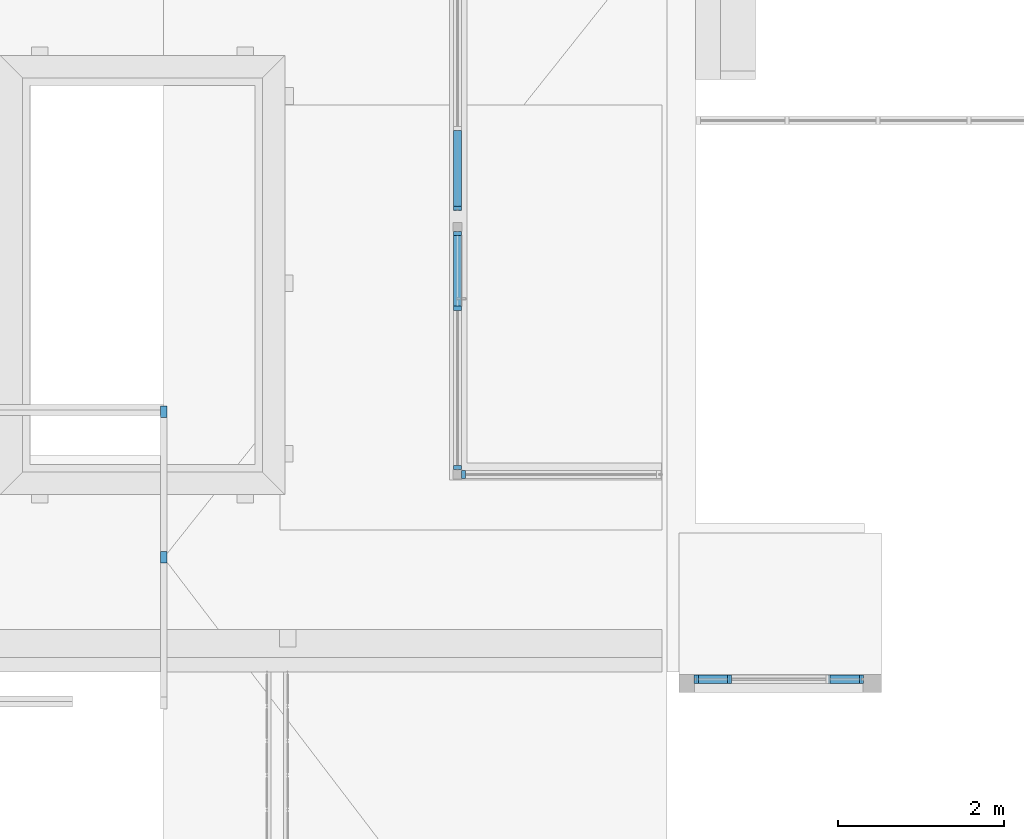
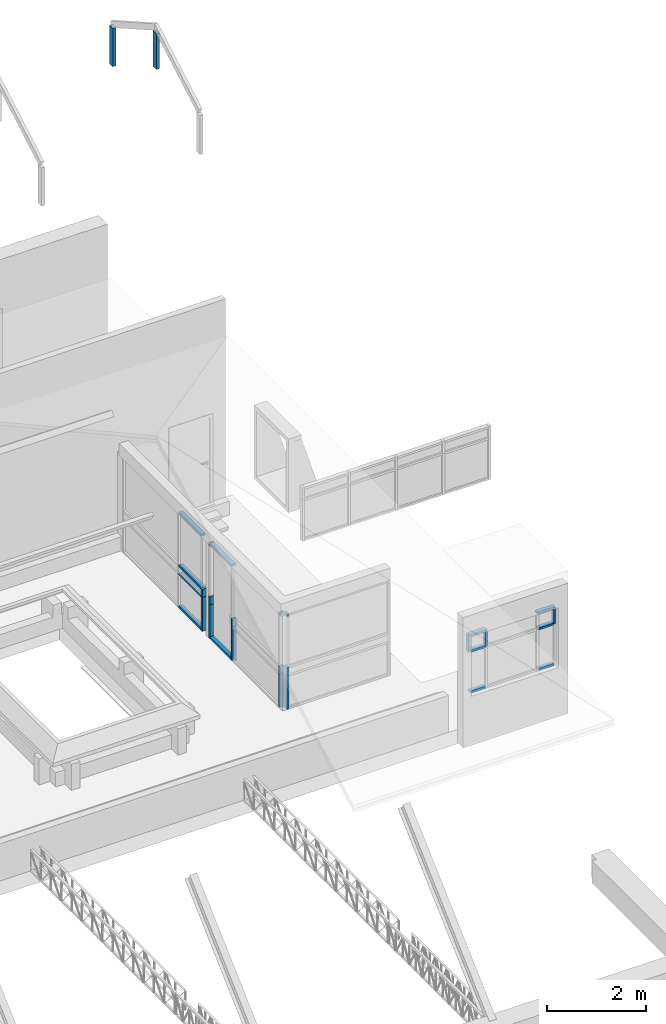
# One storey, part 99 of 153: 32 members, 5 elements without a shape of their own.
"""IFC4 building model written with IfcOpenShell, lengths in metres."""

import ifcopenshell
import ifcopenshell.guid

model = None  # the IFC model being written
_history = None  # IfcOwnerHistory: only IFC2X3 demands one
_inside = {}  # id of a spatial element -> (the spatial element, [elements in it])
_under = {}  # id of a project, library or spatial element -> (it, [spatial elements below it])
_declared = {}  # id of a project -> (the project, [libraries it declares])
_typed = {}  # id of a type object -> (the type object, [elements of that type])
_made_of = {}  # id of a material, layer set ... -> (it, [elements and type objects made of it])


def new_model(schema):
    """Start an empty IFC model of exactly this schema.

    Asked for "IFC4X3", IfcOpenShell would pick the latest addendum, in which some entities
    have other attributes; the version numbers below select the first issue.
    IFC2X3 requires an IfcOwnerHistory on every rooted entity: one is made here for all.
    """
    global model, _history
    if schema == "IFC4X3":
        model = ifcopenshell.file(schema_version=(4, 3, 0, 0))
    else:
        model = ifcopenshell.file(schema=schema)
    _inside.clear()
    _under.clear()
    _declared.clear()
    _typed.clear()
    _made_of.clear()
    _history = None
    if model.schema == "IFC2X3":
        org = make("IfcOrganization", Name="unknown")
        user = make(
            "IfcPersonAndOrganization",
            ThePerson=make("IfcPerson", FamilyName="unknown"),
            TheOrganization=org,
        )
        app = make(
            "IfcApplication",
            ApplicationDeveloper=org,
            Version="unknown",
            ApplicationFullName="unknown",
            ApplicationIdentifier="unknown",
        )
        _history = make(
            "IfcOwnerHistory",
            OwningUser=user,
            OwningApplication=app,
            ChangeAction="ADDED",
            CreationDate=0,
        )
    return model


def make(cls, **values):
    """One entity of the class cls with the attributes given. An attribute that is None is left unset."""
    return model.create_entity(
        cls, **{name: value for name, value in values.items() if value is not None}
    )


def entity(cls, *values):
    """Any entity or typed value of the class cls, its attributes in the order of the schema. None: left unset."""
    e = model.create_entity(cls)
    for i, value in enumerate(values):
        if value is not None:
            e[i] = value
    return e


def rooted(cls, **values):
    """An entity with a GlobalId (a new one), such as an element, a storey or a relation."""
    return make(cls, GlobalId=ifcopenshell.guid.new(), OwnerHistory=_history, **values)


def si_unit(unit_type, name, prefix=None):
    """IfcSIUnit, for example si_unit("LENGTHUNIT", "METRE", prefix="MILLI")."""
    return make("IfcSIUnit", UnitType=unit_type, Prefix=prefix, Name=name)


def converted_unit(unit_type, name, factor, base, dimensions=None, offset=None):
    """IfcConversionBasedUnit, such as the inch: factor (a typed value) times the base unit."""
    return make(
        "IfcConversionBasedUnit"
        if offset is None
        else "IfcConversionBasedUnitWithOffset",
        ConversionOffset=offset,
        Dimensions=None
        if dimensions is None
        else entity("IfcDimensionalExponents", *dimensions),
        UnitType=unit_type,
        Name=name,
        ConversionFactor=make(
            "IfcMeasureWithUnit", ValueComponent=factor, UnitComponent=base
        ),
    )


def derived_unit(unit_type, elements):
    """IfcDerivedUnit: a product of units, each with its exponent."""
    return make(
        "IfcDerivedUnit",
        Elements=[
            make("IfcDerivedUnitElement", Unit=unit, Exponent=power)
            for unit, power in elements
        ],
        UnitType=unit_type,
    )


def assignment(units):
    """IfcUnitAssignment: the units of a project."""
    return None if units is None else make("IfcUnitAssignment", Units=units)


def point(xyz):
    """IfcCartesianPoint."""
    return None if xyz is None else make("IfcCartesianPoint", Coordinates=xyz)


def direction(xyz):
    """IfcDirection."""
    return None if xyz is None else make("IfcDirection", DirectionRatios=xyz)


def frame(location, z_axis=None, x_axis=None):
    """IfcAxis2Placement3D, a coordinate frame: its origin and axes. An axis left out is left unset."""
    return make(
        "IfcAxis2Placement3D",
        Location=point(location),
        Axis=direction(z_axis),
        RefDirection=direction(x_axis),
    )


def origin():
    """The frame at (0, 0, 0) with its axes left unset."""
    return frame((0.0, 0.0, 0.0))


def place(relative_to, where):
    """IfcLocalPlacement: puts the frame where relative to a parent placement (None: the world)."""
    return make(
        "IfcLocalPlacement", PlacementRelTo=relative_to, RelativePlacement=where
    )


def context(
    kind, dimensions, precision=None, world=None, true_north=None, identifier=None
):
    """IfcGeometricRepresentationContext, for example the 3D "Model" context."""
    return make(
        "IfcGeometricRepresentationContext",
        ContextIdentifier=identifier,
        ContextType=kind,
        CoordinateSpaceDimension=dimensions,
        Precision=precision,
        WorldCoordinateSystem=world,
        TrueNorth=true_north,
    )


def subcontext(parent, identifier, kind, view, scale=None):
    """IfcGeometricRepresentationSubContext, for example "Body" below "Model"."""
    return make(
        "IfcGeometricRepresentationSubContext",
        ContextIdentifier=identifier,
        ContextType=kind,
        ParentContext=parent,
        TargetScale=scale,
        TargetView=view,
    )


def project(units=None, contexts=None):
    """IfcProject with its units and contexts."""
    return rooted(
        "IfcProject",
        Name="project",
        RepresentationContexts=contexts,
        UnitsInContext=assignment(units),
    )


def spatial(cls, under=None, at=None, **own):
    """A site, building, storey or space (cls), placed at a placement, below another one or the project."""
    s = rooted(cls, ObjectPlacement=at, **own)
    if under is not None:
        _under.setdefault(under.id(), (under, []))[1].append(s)
    return s


def point_list(points):
    """IfcCartesianPointList2D or 3D."""
    cls = (
        "IfcCartesianPointList2D" if len(points[0]) == 2 else "IfcCartesianPointList3D"
    )
    return make(cls, CoordList=points)


def indexed_curve(points, segments=None, self_intersect=None):
    """IfcIndexedPolyCurve: lines and arcs through numbered points (the first is 1)."""
    return make(
        "IfcIndexedPolyCurve",
        Points=point_list(points),
        Segments=segments,
        SelfIntersect=self_intersect,
    )


def outline(outer, holes=None, kind="AREA"):
    """IfcArbitraryClosedProfileDef: a profile drawn as a closed curve; with holes, ...WithVoids."""
    if holes is None:
        return make("IfcArbitraryClosedProfileDef", ProfileType=kind, OuterCurve=outer)
    return make(
        "IfcArbitraryProfileDefWithVoids",
        ProfileType=kind,
        OuterCurve=outer,
        InnerCurves=holes,
    )


def extrude(swept, where, along, depth):
    """IfcExtrudedAreaSolid: the profile swept, set in the frame where, extruded along a direction by depth."""
    return make(
        "IfcExtrudedAreaSolid",
        SweptArea=swept,
        Position=where,
        ExtrudedDirection=direction(along),
        Depth=depth,
    )


def shape(context_of_items, identifier, shape_type, items):
    """IfcShapeRepresentation: the items that make up one representation, for example the "Body"."""
    return make(
        "IfcShapeRepresentation",
        ContextOfItems=context_of_items,
        RepresentationIdentifier=identifier,
        RepresentationType=shape_type,
        Items=items,
    )


def source(mapping_origin, context_of_items, identifier, shape_type, items):
    """IfcRepresentationMap: a shape defined once, which mapped items show again and again."""
    return make(
        "IfcRepresentationMap",
        MappingOrigin=mapping_origin,
        MappedRepresentation=shape(context_of_items, identifier, shape_type, items),
    )


def transform(
    local_origin,
    x_axis=None,
    y_axis=None,
    z_axis=None,
    scale=None,
    scale2=None,
    scale3=None,
    uniform=True,
):
    """IfcCartesianTransformationOperator3D, or its non-uniform kind. x_axis, y_axis, z_axis: its Axis1, 2, 3."""
    if uniform:
        return make(
            "IfcCartesianTransformationOperator3D",
            Axis1=direction(x_axis),
            Axis2=direction(y_axis),
            LocalOrigin=point(local_origin),
            Scale=scale,
            Axis3=direction(z_axis),
        )
    return make(
        "IfcCartesianTransformationOperator3DnonUniform",
        Axis1=direction(x_axis),
        Axis2=direction(y_axis),
        LocalOrigin=point(local_origin),
        Scale=scale,
        Axis3=direction(z_axis),
        Scale2=scale2,
        Scale3=scale3,
    )


def mapped(mapping_source, mapping_target):
    """IfcMappedItem: shows the shape of a source again, moved by a transform."""
    return make(
        "IfcMappedItem", MappingSource=mapping_source, MappingTarget=mapping_target
    )


def material(Name=None, Category=None):
    """IfcMaterial."""
    return make("IfcMaterial", Name=Name, Category=Category)


def made_of(thing, what):
    """Note that an element or type object is made of a material, layer set ...; save() writes the relation."""
    if what is not None:
        _made_of.setdefault(what.id(), (what, []))[1].append(thing)
    return thing


def type_object(cls, material=None, **own):
    """A type object (cls), such as IfcWallType, which elements share."""
    return made_of(rooted(cls, **own), material)


def type_shapes(of_type, sources):
    """Give a type object the sources (RepresentationMaps) that its elements show as mapped items."""
    of_type.RepresentationMaps = sources


def element(
    cls,
    number,
    at=None,
    inside=None,
    cuts=None,
    type_object=None,
    material=None,
    context=None,
    identifier="Body",
    shape_type=None,
    held_by="IfcProductDefinitionShape",
    body=None,
    shapes=None,
    **own,
):
    """One element of the class cls, such as IfcWall. Its Tag is "e" and its number.

    at: its placement. inside: the storey or other place that contains it. cuts: it is an
    opening in that element (IfcRelVoidsElement). A single representation is given by context,
    identifier, shape_type and body (its items); several are given by shapes. held_by: the class
    of the entity that holds the representations. save() writes the other relations.
    """
    e = rooted(cls, Tag="e%d" % number, ObjectPlacement=at, **own)
    if body is not None:
        shapes = [shape(context, identifier, shape_type, body)]
    if shapes is not None:
        e.Representation = make(held_by, Representations=shapes)
    if inside is not None:
        _inside.setdefault(inside.id(), (inside, []))[1].append(e)
    if cuts is not None:
        rooted(
            "IfcRelVoidsElement", RelatingBuildingElement=cuts, RelatedOpeningElement=e
        )
    if type_object is not None:
        _typed.setdefault(type_object.id(), (type_object, []))[1].append(e)
    return made_of(e, material)


def aggregate(whole, parts):
    """IfcRelAggregates: a whole, such as a stair, and the parts it consists of."""
    return rooted("IfcRelAggregates", RelatingObject=whole, RelatedObjects=parts)


def save(model, path):
    """Write the relations noted so far, then the file.

    IfcRelAggregates (storeys below a building ...), IfcRelContainedInSpatialStructure (elements
    in a storey), IfcRelDefinesByType, IfcRelAssociatesMaterial and IfcRelDeclares: one each for
    every whole, place, type object, material and project.
    """
    for whole, parts in _under.values():
        aggregate(whole, parts)
    for where, things in _inside.values():
        rooted(
            "IfcRelContainedInSpatialStructure",
            RelatedElements=things,
            RelatingStructure=where,
        )
    for kind, things in _typed.values():
        rooted("IfcRelDefinesByType", RelatedObjects=things, RelatingType=kind)
    for what, things in _made_of.values():
        rooted("IfcRelAssociatesMaterial", RelatedObjects=things, RelatingMaterial=what)
    for by, libraries in _declared.values():
        rooted("IfcRelDeclares", RelatingContext=by, RelatedDefinitions=libraries)
    model.write(path)


model = new_model("IFC4")

# Units and contexts
model_context = context("Model", 3, precision=1e-05, world=origin(), true_north=direction((6.123031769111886e-17, 1.0)))
body_context = subcontext(model_context, "Body", "Model", "MODEL_VIEW")
ifc_project = project(units=[si_unit("LENGTHUNIT", "METRE"), si_unit("AREAUNIT", "SQUARE_METRE"), si_unit("VOLUMEUNIT", "CUBIC_METRE"), converted_unit("PLANEANGLEUNIT", "DEGREE", entity("IfcRatioMeasure", 0.017453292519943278), si_unit("PLANEANGLEUNIT", "RADIAN"), dimensions=[0, 0, 0, 0, 0, 0, 0]), si_unit("MASSUNIT", "GRAM", prefix="KILO"), derived_unit("MASSDENSITYUNIT", [(si_unit("MASSUNIT", "GRAM", prefix="KILO"), 1), (si_unit("LENGTHUNIT", "METRE"), -3)]), derived_unit("MOMENTOFINERTIAUNIT", [(si_unit("LENGTHUNIT", "METRE"), 4)]), si_unit("TIMEUNIT", "SECOND"), si_unit("FREQUENCYUNIT", "HERTZ"), si_unit("THERMODYNAMICTEMPERATUREUNIT", "DEGREE_CELSIUS"), derived_unit("THERMALTRANSMITTANCEUNIT", [(si_unit("MASSUNIT", "GRAM", prefix="KILO"), 1), (si_unit("THERMODYNAMICTEMPERATUREUNIT", "KELVIN"), -1), (si_unit("TIMEUNIT", "SECOND"), -3)]), derived_unit("VOLUMETRICFLOWRATEUNIT", [(si_unit("LENGTHUNIT", "METRE"), 3), (si_unit("TIMEUNIT", "SECOND"), -1)]), derived_unit("MASSFLOWRATEUNIT", [(si_unit("MASSUNIT", "GRAM", prefix="KILO"), 1), (si_unit("TIMEUNIT", "SECOND"), -1)]), derived_unit("ROTATIONALFREQUENCYUNIT", [(si_unit("TIMEUNIT", "SECOND"), -1)]), si_unit("ELECTRICCURRENTUNIT", "AMPERE"), si_unit("ELECTRICVOLTAGEUNIT", "VOLT"), si_unit("POWERUNIT", "WATT"), si_unit("FORCEUNIT", "NEWTON", prefix="KILO"), si_unit("ILLUMINANCEUNIT", "LUX"), si_unit("LUMINOUSFLUXUNIT", "LUMEN"), si_unit("LUMINOUSINTENSITYUNIT", "CANDELA"), derived_unit("USERDEFINED", [(si_unit("MASSUNIT", "GRAM", prefix="KILO"), -1), (si_unit("LENGTHUNIT", "METRE"), -2), (si_unit("TIMEUNIT", "SECOND"), 3), (si_unit("LUMINOUSFLUXUNIT", "LUMEN"), 1)]), derived_unit("SOUNDPOWERUNIT", [(si_unit("MASSUNIT", "GRAM", prefix="KILO"), 1), (si_unit("LENGTHUNIT", "METRE"), 2), (si_unit("TIMEUNIT", "SECOND"), -3)]), derived_unit("SOUNDPRESSUREUNIT", [(si_unit("MASSUNIT", "GRAM", prefix="KILO"), 1), (si_unit("LENGTHUNIT", "METRE"), -1), (si_unit("TIMEUNIT", "SECOND"), -2)]), derived_unit("LINEARVELOCITYUNIT", [(si_unit("LENGTHUNIT", "METRE"), 1), (si_unit("TIMEUNIT", "SECOND"), -1)]), si_unit("PRESSUREUNIT", "PASCAL"), derived_unit("USERDEFINED", [(si_unit("LENGTHUNIT", "METRE"), -2), (si_unit("MASSUNIT", "GRAM", prefix="KILO"), 1), (si_unit("TIMEUNIT", "SECOND"), -2)]), derived_unit("LINEARFORCEUNIT", [(si_unit("MASSUNIT", "GRAM", prefix="KILO"), 1), (si_unit("LENGTHUNIT", "METRE"), 1), (si_unit("TIMEUNIT", "SECOND"), -2), (si_unit("LENGTHUNIT", "METRE"), -1)]), derived_unit("PLANARFORCEUNIT", [(si_unit("MASSUNIT", "GRAM", prefix="KILO"), 1), (si_unit("LENGTHUNIT", "METRE"), 1), (si_unit("TIMEUNIT", "SECOND"), -2), (si_unit("LENGTHUNIT", "METRE"), -2)])], contexts=[model_context])

# Site, building, storey
site_placement = place(None, origin())
site = spatial("IfcSite", under=ifc_project, at=site_placement, Name="Superficie", CompositionType="ELEMENT")
building_placement = place(site_placement, origin())
building = spatial("IfcBuilding", under=site, at=building_placement, CompositionType="ELEMENT")
storey_placement = place(building_placement, frame((0.0, 0.0, 3.5999999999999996)))
storey = spatial("IfcBuildingStorey", under=building, at=storey_placement, Name="Nivel 1", CompositionType="ELEMENT", Elevation=3.5999999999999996)

# Curtain wall, member
curtain_wall_type = type_object("IfcCurtainWallType", Name="Muro cortina:Muro cortina - simple", PredefinedType="NOTDEFINED")
curtain_wall_1_placement = place(storey_placement, frame((0.0, 0.0, -3.5999999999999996)))
curtain_wall_1 = element("IfcCurtainWall", 1, at=curtain_wall_1_placement, inside=storey, type_object=curtain_wall_type, Name="Muro cortina:Muro cortina - simple", ObjectType="Muro cortina:Muro cortina - simple", PredefinedType="NOTDEFINED")
ifc_material_1 = material(Name="<Unnamed>")
member_type_1 = type_object("IfcMemberType", Name="Montante rectangular:Montante rectangular - 5 x 10 cm", PredefinedType="MULLION", material=ifc_material_1)
shared_shape_1 = source(origin(), body_context, "Body", "SweptSolid", [
    extrude(outline(indexed_curve([(-0.05, -0.025), (0.05, -0.025), (0.05, 0.025), (-0.05, 0.025), (-0.05, -0.025)], self_intersect=False)), frame((0.0, 0.0, -0.8500000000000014), z_axis=(0.0, 0.0, 1.0), x_axis=(0.0, -1.0, 0.0)), (0.0, 0.0, 1.0), 0.849999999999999),
])
type_shapes(member_type_1, [shared_shape_1])
member_1_placement = place(curtain_wall_1_placement, frame((18.12679901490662, 1.9102328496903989, 3.619999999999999), z_axis=(0.0, 1.0, 0.0), x_axis=(0.0, 0.0, 1.0)))
member_1 = element("IfcMember", 2, at=member_1_placement, type_object=member_type_1, material=ifc_material_1, Name="Montante rectangular:Montante rectangular - 5 x 10 cm", ObjectType="Montante rectangular:Montante rectangular - 5 x 10 cm", PredefinedType="MULLION", context=body_context, shape_type="MappedRepresentation", body=[
    mapped(shared_shape_1, transform((0.0, 0.0, 0.0), scale=1.0)),
])

curtain_wall_2_placement = place(storey_placement, frame((0.0, 0.0, -3.5999999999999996)))
curtain_wall_2 = element("IfcCurtainWall", 3, at=curtain_wall_2_placement, inside=storey, type_object=curtain_wall_type, Name="Muro cortina:Muro cortina - simple", ObjectType="Muro cortina:Muro cortina - simple", PredefinedType="NOTDEFINED")
member_type_2 = type_object("IfcMemberType", Name="Montante rectangular:Montante rectangular - 5 x 10 cm", PredefinedType="MULLION", material=ifc_material_1)
shared_shape_2 = source(origin(), body_context, "Body", "SweptSolid", [
    extrude(outline(indexed_curve([(-0.05, -0.025), (0.05, -0.025), (0.05, 0.025), (-0.05, 0.025), (-0.05, -0.025)], self_intersect=False)), frame((0.0, 0.0, -0.19999999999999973), z_axis=(0.0, 0.0, 1.0), x_axis=(0.0, -1.0, 0.0)), (0.0, 0.0, 1.0), 0.19999999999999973),
])
type_shapes(member_type_2, [shared_shape_2])
member_2_placement = place(curtain_wall_2_placement, frame((18.20179901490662, -0.9636067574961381, 4.43), z_axis=(0.0, 0.0, -1.0), x_axis=(1.0, 0.0, 0.0)))
member_2 = element("IfcMember", 4, at=member_2_placement, type_object=member_type_2, material=ifc_material_1, Name="Montante rectangular:Montante rectangular - 5 x 10 cm", ObjectType="Montante rectangular:Montante rectangular - 5 x 10 cm", PredefinedType="MULLION", context=body_context, shape_type="MappedRepresentation", body=[
    mapped(shared_shape_2, transform((0.0, 0.0, 0.0), scale=1.0)),
])

# Member
member_3_placement = place(curtain_wall_1_placement, frame((18.12679901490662, 1.0352328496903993, 4.43), z_axis=(0.0, 0.0, -1.0), x_axis=(0.0, 1.0, 0.0)))
member_3 = element("IfcMember", 5, at=member_3_placement, type_object=member_type_2, material=ifc_material_1, Name="Montante rectangular:Montante rectangular - 5 x 10 cm", ObjectType="Montante rectangular:Montante rectangular - 5 x 10 cm", PredefinedType="MULLION", context=body_context, shape_type="MappedRepresentation", body=[
    mapped(shared_shape_2, transform((0.0, 0.0, 0.0), scale=1.0)),
])

# Curtain wall, member
curtain_wall_3_placement = place(storey_placement, frame((0.0, 0.0, -3.5999999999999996)))
curtain_wall_3 = element("IfcCurtainWall", 6, at=curtain_wall_3_placement, inside=storey, type_object=curtain_wall_type, Name="Muro cortina:Muro cortina - simple", ObjectType="Muro cortina:Muro cortina - simple", PredefinedType="NOTDEFINED")
member_4_placement = place(curtain_wall_3_placement, frame((18.12679901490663, 2.235232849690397, 4.43), z_axis=(0.0, 0.0, -1.0), x_axis=(0.0, 1.0, 0.0)))
member_4 = element("IfcMember", 7, at=member_4_placement, type_object=member_type_2, material=ifc_material_1, Name="Montante rectangular:Montante rectangular - 5 x 10 cm", ObjectType="Montante rectangular:Montante rectangular - 5 x 10 cm", PredefinedType="MULLION", context=body_context, shape_type="MappedRepresentation", body=[
    mapped(shared_shape_2, transform((0.0, 0.0, 0.0), scale=1.0)),
])

# Member
member_type_3 = type_object("IfcMemberType", Name="Montante rectangular:Montante rectangular - 5 x 10 cm", PredefinedType="MULLION", material=ifc_material_1)
shared_shape_3 = source(origin(), body_context, "Body", "SweptSolid", [
    extrude(outline(indexed_curve([(-0.05, -0.025), (0.05, -0.025), (0.05, 0.025), (-0.05, 0.025), (-0.05, -0.025)], self_intersect=False)), frame((0.0, 0.0, -0.8350000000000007), z_axis=(0.0, 0.0, 1.0), x_axis=(0.0, -1.0, 0.0)), (0.0, 0.0, 1.0), 0.8350000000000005),
])
type_shapes(member_type_3, [shared_shape_3])
member_5_placement = place(curtain_wall_2_placement, frame((18.20179901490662, -0.9636067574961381, 3.5949999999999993), z_axis=(0.0, 0.0, -1.0), x_axis=(1.0, 0.0, 0.0)))
member_5 = element("IfcMember", 8, at=member_5_placement, type_object=member_type_3, material=ifc_material_1, Name="Montante rectangular:Montante rectangular - 5 x 10 cm", ObjectType="Montante rectangular:Montante rectangular - 5 x 10 cm", PredefinedType="MULLION", context=body_context, shape_type="MappedRepresentation", body=[
    mapped(shared_shape_3, transform((0.0, 0.0, 0.0), scale=1.0)),
])

member_6_placement = place(curtain_wall_1_placement, frame((18.12679901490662, 1.0352328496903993, 3.5949999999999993), z_axis=(0.0, 0.0, -1.0), x_axis=(0.0, 1.0, 0.0)))
member_6 = element("IfcMember", 9, at=member_6_placement, type_object=member_type_3, material=ifc_material_1, Name="Montante rectangular:Montante rectangular - 5 x 10 cm", ObjectType="Montante rectangular:Montante rectangular - 5 x 10 cm", PredefinedType="MULLION", context=body_context, shape_type="MappedRepresentation", body=[
    mapped(shared_shape_3, transform((0.0, 0.0, 0.0), scale=1.0)),
])

member_7_placement = place(curtain_wall_3_placement, frame((18.12679901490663, 2.235232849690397, 3.5949999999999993), z_axis=(0.0, 0.0, -1.0), x_axis=(0.0, 1.0, 0.0)))
member_7 = element("IfcMember", 10, at=member_7_placement, type_object=member_type_3, material=ifc_material_1, Name="Montante rectangular:Montante rectangular - 5 x 10 cm", ObjectType="Montante rectangular:Montante rectangular - 5 x 10 cm", PredefinedType="MULLION", context=body_context, shape_type="MappedRepresentation", body=[
    mapped(shared_shape_3, transform((0.0, 0.0, 0.0), scale=1.0)),
])

member_type_4 = type_object("IfcMemberType", Name="Montante rectangular:Montante rectangular - 5 x 10 cm", PredefinedType="MULLION", material=ifc_material_1)
shared_shape_4 = source(origin(), body_context, "Body", "SweptSolid", [
    extrude(outline(indexed_curve([(-0.05, -0.025), (0.05, -0.025), (0.05, 0.025), (-0.05, 0.025), (-0.05, -0.025)], self_intersect=False)), frame((0.0, 0.0, -0.2), z_axis=(0.0, 0.0, 1.0), x_axis=(0.0, -1.0, 0.0)), (0.0, 0.0, 1.0), 0.2),
])
type_shapes(member_type_4, [shared_shape_4])
member_8_placement = place(curtain_wall_1_placement, frame((18.12679901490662, 1.935232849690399, 4.43), z_axis=(0.0, 0.0, -1.0), x_axis=(0.0, 1.0, 0.0)))
member_8 = element("IfcMember", 11, at=member_8_placement, type_object=member_type_4, material=ifc_material_1, Name="Montante rectangular:Montante rectangular - 5 x 10 cm", ObjectType="Montante rectangular:Montante rectangular - 5 x 10 cm", PredefinedType="MULLION", context=body_context, shape_type="MappedRepresentation", body=[
    mapped(shared_shape_4, transform((0.0, 0.0, 0.0), scale=1.0)),
])

member_type_5 = type_object("IfcMemberType", Name="Montante rectangular:Montante rectangular - 5 x 10 cm", PredefinedType="MULLION", material=ifc_material_1)
shared_shape_5 = source(origin(), body_context, "Body", "SweptSolid", [
    extrude(outline(indexed_curve([(-0.05, -0.025), (0.05, -0.025), (0.05, 0.025), (-0.05, 0.025), (-0.05, -0.025)], self_intersect=False)), frame((0.0, 0.0, -0.8350000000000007), z_axis=(0.0, 0.0, 1.0), x_axis=(0.0, -1.0, 0.0)), (0.0, 0.0, 1.0), 0.8350000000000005),
])
type_shapes(member_type_5, [shared_shape_5])
member_9_placement = place(curtain_wall_1_placement, frame((18.12679901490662, 1.935232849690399, 3.5949999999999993), z_axis=(0.0, 0.0, -1.0), x_axis=(0.0, 1.0, 0.0)))
member_9 = element("IfcMember", 12, at=member_9_placement, type_object=member_type_5, material=ifc_material_1, Name="Montante rectangular:Montante rectangular - 5 x 10 cm", ObjectType="Montante rectangular:Montante rectangular - 5 x 10 cm", PredefinedType="MULLION", context=body_context, shape_type="MappedRepresentation", body=[
    mapped(shared_shape_5, transform((0.0, 0.0, 0.0), scale=1.0)),
])

member_type_6 = type_object("IfcMemberType", Name="Montante rectangular:Montante rectangular - 5 x 10 cm", PredefinedType="MULLION", material=ifc_material_1)
shared_shape_6 = source(origin(), body_context, "Body", "SweptSolid", [
    extrude(outline(indexed_curve([(-0.05, -0.025), (0.05, -0.025), (0.05, 0.025), (-0.05, 0.025), (-0.05, -0.025)], self_intersect=False)), frame((-0.025, 0.0, -0.19999999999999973), z_axis=(0.0, 0.0, 1.0), x_axis=(0.0, -1.0, 0.0)), (0.0, 0.0, 1.0), 0.19999999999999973),
])
type_shapes(member_type_6, [shared_shape_6])
member_10_placement = place(curtain_wall_1_placement, frame((18.12679901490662, -0.9047671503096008, 4.63), z_axis=(0.0, 0.0, 1.0), x_axis=(0.0, -1.0, 0.0)))
member_10 = element("IfcMember", 13, at=member_10_placement, type_object=member_type_6, material=ifc_material_1, Name="Montante rectangular:Montante rectangular - 5 x 10 cm", ObjectType="Montante rectangular:Montante rectangular - 5 x 10 cm", PredefinedType="MULLION", context=body_context, shape_type="MappedRepresentation", body=[
    mapped(shared_shape_6, transform((0.0, 0.0, 0.0), scale=1.0)),
])

# Curtain wall, members
curtain_wall_4_placement = place(storey_placement, frame((0.0, 0.0, -3.5999999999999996)))
curtain_wall_4 = element("IfcCurtainWall", 14, at=curtain_wall_4_placement, inside=storey, type_object=curtain_wall_type, Name="Muro cortina:Muro cortina - simple", ObjectType="Muro cortina:Muro cortina - simple", PredefinedType="NOTDEFINED")
member_type_7 = type_object("IfcMemberType", Name="Montante rectangular:Montante rectangular - 5 x 10 cm", PredefinedType="MULLION", material=ifc_material_1)
shared_shape_7 = source(origin(), body_context, "Body", "SweptSolid", [
    extrude(outline(indexed_curve([(-0.05, -0.025), (0.05, -0.025), (0.05, 0.025), (-0.05, 0.025), (-0.05, -0.025)], self_intersect=False)), frame((0.0, 0.0, -0.34999999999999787), z_axis=(0.0, 0.0, 1.0), x_axis=(0.0, -1.0, 0.0)), (0.0, 0.0, 1.0), 0.3499999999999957),
])
type_shapes(member_type_7, [shared_shape_7])
member_11_placement = place(curtain_wall_4_placement, frame((22.606001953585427, -3.424170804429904, 4.52), z_axis=(-1.0, 0.0, 0.0), x_axis=(0.0, 0.0, 1.0)))
member_11 = element("IfcMember", 15, at=member_11_placement, type_object=member_type_7, material=ifc_material_1, Name="Montante rectangular:Montante rectangular - 5 x 10 cm", ObjectType="Montante rectangular:Montante rectangular - 5 x 10 cm", PredefinedType="MULLION", context=body_context, shape_type="MappedRepresentation", body=[
    mapped(shared_shape_7, transform((0.0, 0.0, 0.0), scale=1.0)),
])
member_12_placement = place(curtain_wall_4_placement, frame((21.02100195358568, -3.424170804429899, 4.52), z_axis=(-1.0, 0.0, 0.0), x_axis=(0.0, 0.0, 1.0)))
member_12 = element("IfcMember", 16, at=member_12_placement, type_object=member_type_7, material=ifc_material_1, Name="Montante rectangular:Montante rectangular - 5 x 10 cm", ObjectType="Montante rectangular:Montante rectangular - 5 x 10 cm", PredefinedType="MULLION", context=body_context, shape_type="MappedRepresentation", body=[
    mapped(shared_shape_7, transform((0.0, 0.0, 0.0), scale=1.0)),
])
member_13_placement = place(curtain_wall_4_placement, frame((21.02100195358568, -3.424170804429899, 5.516385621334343), z_axis=(-1.0, 0.0, 0.0), x_axis=(0.0, 0.0, 1.0)))
member_13 = element("IfcMember", 17, at=member_13_placement, type_object=member_type_7, material=ifc_material_1, Name="Montante rectangular:Montante rectangular - 5 x 10 cm", ObjectType="Montante rectangular:Montante rectangular - 5 x 10 cm", PredefinedType="MULLION", context=body_context, shape_type="MappedRepresentation", body=[
    mapped(shared_shape_7, transform((0.0, 0.0, 0.0), scale=1.0)),
])
member_14_placement = place(curtain_wall_4_placement, frame((22.606001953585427, -3.424170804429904, 5.516385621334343), z_axis=(-1.0, 0.0, 0.0), x_axis=(0.0, 0.0, 1.0)))
member_14 = element("IfcMember", 18, at=member_14_placement, type_object=member_type_7, material=ifc_material_1, Name="Montante rectangular:Montante rectangular - 5 x 10 cm", ObjectType="Montante rectangular:Montante rectangular - 5 x 10 cm", PredefinedType="MULLION", context=body_context, shape_type="MappedRepresentation", body=[
    mapped(shared_shape_7, transform((0.0, 0.0, 0.0), scale=1.0)),
])
member_type_8 = type_object("IfcMemberType", Name="Montante rectangular:Montante rectangular - 5 x 10 cm", PredefinedType="MULLION", material=ifc_material_1)
shared_shape_8 = source(origin(), body_context, "Body", "SweptSolid", [
    extrude(outline(indexed_curve([(-0.05, -0.025), (0.05, -0.025), (0.05, 0.025), (-0.05, 0.025), (-0.05, -0.025)], self_intersect=False)), frame((-0.025, 0.0, -0.3999999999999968), z_axis=(0.0, 0.0, 1.0), x_axis=(0.0, -1.0, 0.0)), (0.0, 0.0, 1.0), 0.3999999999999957),
])
type_shapes(member_type_8, [shared_shape_8])
member_15_placement = place(curtain_wall_4_placement, frame((20.996001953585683, -3.424170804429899, 5.936385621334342), z_axis=(-1.0, 0.0, 0.0), x_axis=(0.0, 0.0, 1.0)))
member_15 = element("IfcMember", 19, at=member_15_placement, type_object=member_type_8, material=ifc_material_1, Name="Montante rectangular:Montante rectangular - 5 x 10 cm", ObjectType="Montante rectangular:Montante rectangular - 5 x 10 cm", PredefinedType="MULLION", context=body_context, shape_type="MappedRepresentation", body=[
    mapped(shared_shape_8, transform((0.0, 0.0, 0.0), scale=1.0)),
])
member_type_9 = type_object("IfcMemberType", Name="Montante rectangular:Montante rectangular - 5 x 10 cm", PredefinedType="MULLION", material=ifc_material_1)
shared_shape_9 = source(origin(), body_context, "Body", "SweptSolid", [
    extrude(outline(indexed_curve([(-0.05, -0.025), (0.05, -0.025), (0.05, 0.025), (-0.05, 0.025), (-0.05, -0.025)], self_intersect=False)), frame((-0.025, 0.0, -0.40000000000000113), z_axis=(0.0, 0.0, 1.0), x_axis=(0.0, -1.0, 0.0)), (0.0, 0.0, 1.0), 0.4),
])
type_shapes(member_type_9, [shared_shape_9])
member_16_placement = place(curtain_wall_4_placement, frame((22.581001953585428, -3.424170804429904, 5.936385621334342), z_axis=(-1.0, 0.0, 0.0), x_axis=(0.0, 0.0, 1.0)))
member_16 = element("IfcMember", 20, at=member_16_placement, type_object=member_type_9, material=ifc_material_1, Name="Montante rectangular:Montante rectangular - 5 x 10 cm", ObjectType="Montante rectangular:Montante rectangular - 5 x 10 cm", PredefinedType="MULLION", context=body_context, shape_type="MappedRepresentation", body=[
    mapped(shared_shape_9, transform((0.0, 0.0, 0.0), scale=1.0)),
])
member_type_10 = type_object("IfcMemberType", Name="Montante rectangular:Montante rectangular - 5 x 10 cm", PredefinedType="MULLION", material=ifc_material_1)
shared_shape_10 = source(origin(), body_context, "Body", "SweptSolid", [
    extrude(outline(indexed_curve([(-0.05, -0.025), (0.05, -0.025), (0.05, 0.025), (-0.05, 0.025), (-0.05, -0.025)], self_intersect=False)), frame((0.0, 0.0, -0.4), z_axis=(0.0, 0.0, 1.0), x_axis=(0.0, -1.0, 0.0)), (0.0, 0.0, 1.0), 0.4),
])
type_shapes(member_type_10, [shared_shape_10])
member_17_placement = place(curtain_wall_4_placement, frame((20.996001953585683, -3.424170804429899, 5.516385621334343), z_axis=(0.0, 0.0, -1.0), x_axis=(-1.0, 0.0, 0.0)))
member_17 = element("IfcMember", 21, at=member_17_placement, type_object=member_type_10, material=ifc_material_1, Name="Montante rectangular:Montante rectangular - 5 x 10 cm", ObjectType="Montante rectangular:Montante rectangular - 5 x 10 cm", PredefinedType="MULLION", context=body_context, shape_type="MappedRepresentation", body=[
    mapped(shared_shape_10, transform((0.0, 0.0, 0.0), scale=1.0)),
])
member_18_placement = place(curtain_wall_4_placement, frame((22.981001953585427, -3.4241708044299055, 5.516385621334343), z_axis=(0.0, 0.0, -1.0), x_axis=(-1.0, 0.0, 0.0)))
member_18 = element("IfcMember", 22, at=member_18_placement, type_object=member_type_10, material=ifc_material_1, Name="Montante rectangular:Montante rectangular - 5 x 10 cm", ObjectType="Montante rectangular:Montante rectangular - 5 x 10 cm", PredefinedType="MULLION", context=body_context, shape_type="MappedRepresentation", body=[
    mapped(shared_shape_10, transform((0.0, 0.0, 0.0), scale=1.0)),
])
member_19_placement = place(curtain_wall_4_placement, frame((21.396001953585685, -3.4241708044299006, 5.516385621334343), z_axis=(0.0, 0.0, -1.0), x_axis=(-1.0, 0.0, 0.0)))
member_19 = element("IfcMember", 23, at=member_19_placement, type_object=member_type_10, material=ifc_material_1, Name="Montante rectangular:Montante rectangular - 5 x 10 cm", ObjectType="Montante rectangular:Montante rectangular - 5 x 10 cm", PredefinedType="MULLION", context=body_context, shape_type="MappedRepresentation", body=[
    mapped(shared_shape_10, transform((0.0, 0.0, 0.0), scale=1.0)),
])
aggregate(curtain_wall_4, [member_11, member_15, member_12, member_16, member_17, member_18, member_19, member_13, member_14])

# Member
member_type_11 = type_object("IfcMemberType", Name="Montante rectangular:Montante rectangular - 5 x 10 cm", PredefinedType="MULLION", material=ifc_material_1)
shared_shape_11 = source(origin(), body_context, "Body", "SweptSolid", [
    extrude(outline(indexed_curve([(-0.05, -0.025), (0.05, -0.025), (0.05, 0.025), (-0.05, 0.025), (-0.05, -0.025)], self_intersect=False)), frame((0.0, 0.0, -0.07000000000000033), z_axis=(0.0, 0.0, 1.0), x_axis=(0.0, -1.0, 0.0)), (0.0, 0.0, 1.0), 0.07000000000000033),
])
type_shapes(member_type_11, [shared_shape_11])
member_20_placement = place(curtain_wall_2_placement, frame((18.20179901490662, -0.9636067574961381, 5.879999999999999), z_axis=(0.0, 0.0, -1.0), x_axis=(1.0, 0.0, 0.0)))
member_20 = element("IfcMember", 24, at=member_20_placement, type_object=member_type_11, material=ifc_material_1, Name="Montante rectangular:Montante rectangular - 5 x 10 cm", ObjectType="Montante rectangular:Montante rectangular - 5 x 10 cm", PredefinedType="MULLION", context=body_context, shape_type="MappedRepresentation", body=[
    mapped(shared_shape_11, transform((0.0, 0.0, 0.0), scale=1.0)),
])

aggregate(curtain_wall_2, [member_20, member_2, member_5])

member_21_placement = place(curtain_wall_1_placement, frame((18.12679901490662, 1.935232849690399, 5.879999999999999), z_axis=(0.0, 0.0, -1.0), x_axis=(0.0, 1.0, 0.0)))
member_21 = element("IfcMember", 25, at=member_21_placement, type_object=member_type_11, material=ifc_material_1, Name="Montante rectangular:Montante rectangular - 5 x 10 cm", ObjectType="Montante rectangular:Montante rectangular - 5 x 10 cm", PredefinedType="MULLION", context=body_context, shape_type="MappedRepresentation", body=[
    mapped(shared_shape_11, transform((0.0, 0.0, 0.0), scale=1.0)),
])

member_type_12 = type_object("IfcMemberType", Name="Montante rectangular:Montante rectangular - 5 x 10 cm", PredefinedType="MULLION", material=ifc_material_1)
shared_shape_12 = source(origin(), body_context, "Body", "SweptSolid", [
    extrude(outline(indexed_curve([(-0.05, -0.025), (0.05, -0.025), (0.05, 0.025), (-0.05, 0.025), (-0.05, -0.025)], self_intersect=False)), frame((-0.025, 0.0, -0.8099999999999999), z_axis=(0.0, 0.0, 1.0), x_axis=(0.0, -1.0, 0.0)), (0.0, 0.0, 1.0), 0.8099999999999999),
])
type_shapes(member_type_12, [shared_shape_12])
member_22_placement = place(curtain_wall_1_placement, frame((18.12679901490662, -0.9047671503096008, 4.43), z_axis=(0.0, 0.0, 1.0), x_axis=(0.0, -1.0, 0.0)))
member_22 = element("IfcMember", 26, at=member_22_placement, type_object=member_type_12, material=ifc_material_1, Name="Montante rectangular:Montante rectangular - 5 x 10 cm", ObjectType="Montante rectangular:Montante rectangular - 5 x 10 cm", PredefinedType="MULLION", context=body_context, shape_type="MappedRepresentation", body=[
    mapped(shared_shape_12, transform((0.0, 0.0, 0.0), scale=1.0)),
])

member_23_placement = place(curtain_wall_3_placement, frame((18.12679901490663, 2.215232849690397, 4.43), z_axis=(0.0, 0.0, 1.0), x_axis=(0.0, -1.0, 0.0)))
member_23 = element("IfcMember", 27, at=member_23_placement, type_object=member_type_12, material=ifc_material_1, Name="Montante rectangular:Montante rectangular - 5 x 10 cm", ObjectType="Montante rectangular:Montante rectangular - 5 x 10 cm", PredefinedType="MULLION", context=body_context, shape_type="MappedRepresentation", body=[
    mapped(shared_shape_12, transform((0.0, 0.0, 0.0), scale=1.0)),
])

member_type_13 = type_object("IfcMemberType", Name="Montante rectangular:Montante rectangular - 5 x 10 cm", PredefinedType="MULLION", material=ifc_material_1)
shared_shape_13 = source(origin(), body_context, "Body", "SweptSolid", [
    extrude(outline(indexed_curve([(-0.05, -0.025), (0.05, -0.025), (0.05, 0.025), (-0.05, 0.025), (-0.05, -0.025)], self_intersect=False)), frame((-0.025, 0.0, -0.8750000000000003), z_axis=(0.0, 0.0, 1.0), x_axis=(0.0, -1.0, 0.0)), (0.0, 0.0, 1.0), 0.8750000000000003),
])
type_shapes(member_type_13, [shared_shape_13])
member_24_placement = place(curtain_wall_1_placement, frame((18.12679901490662, 1.9102328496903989, 5.949999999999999), z_axis=(0.0, 1.0, 0.0), x_axis=(0.0, 0.0, 1.0)))
member_24 = element("IfcMember", 28, at=member_24_placement, type_object=member_type_13, material=ifc_material_1, Name="Montante rectangular:Montante rectangular - 5 x 10 cm", ObjectType="Montante rectangular:Montante rectangular - 5 x 10 cm", PredefinedType="MULLION", context=body_context, shape_type="MappedRepresentation", body=[
    mapped(shared_shape_13, transform((0.0, 0.0, 0.0), scale=1.0)),
])

member_type_14 = type_object("IfcMemberType", Name="Montante rectangular:Montante rectangular - 5 x 10 cm", PredefinedType="MULLION", material=ifc_material_1)
shared_shape_14 = source(origin(), body_context, "Body", "SweptSolid", [
    extrude(outline(indexed_curve([(-0.05, -0.025), (0.05, -0.025), (0.05, 0.025), (-0.05, 0.025), (-0.05, -0.025)], self_intersect=False)), frame((-0.025, 0.0, -0.07000000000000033), z_axis=(0.0, 0.0, 1.0), x_axis=(0.0, -1.0, 0.0)), (0.0, 0.0, 1.0), 0.07000000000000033),
])
type_shapes(member_type_14, [shared_shape_14])
member_25_placement = place(curtain_wall_1_placement, frame((18.12679901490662, -0.9047671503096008, 5.949999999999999), z_axis=(0.0, 0.0, 1.0), x_axis=(0.0, -1.0, 0.0)))
member_25 = element("IfcMember", 29, at=member_25_placement, type_object=member_type_14, material=ifc_material_1, Name="Montante rectangular:Montante rectangular - 5 x 10 cm", ObjectType="Montante rectangular:Montante rectangular - 5 x 10 cm", PredefinedType="MULLION", context=body_context, shape_type="MappedRepresentation", body=[
    mapped(shared_shape_14, transform((0.0, 0.0, 0.0), scale=1.0)),
])

aggregate(curtain_wall_1, [member_8, member_9, member_3, member_6, member_1, member_22, member_10, member_24, member_21, member_25])

member_type_15 = type_object("IfcMemberType", Name="Montante rectangular:Montante rectangular - 5 x 10 cm", PredefinedType="MULLION", material=ifc_material_1)
shared_shape_15 = source(origin(), body_context, "Body", "SweptSolid", [
    extrude(outline(indexed_curve([(-0.05, -0.025), (0.05, -0.025), (0.05, 0.025), (-0.05, 0.025), (-0.05, -0.025)], self_intersect=False)), frame((0.0, 0.0, -0.9099999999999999), z_axis=(0.0, 0.0, 1.0), x_axis=(0.0, -1.0, 0.0)), (0.0, 0.0, 1.0), 0.9099999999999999),
])
type_shapes(member_type_15, [shared_shape_15])
member_26_placement = place(curtain_wall_3_placement, frame((18.12679901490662, 3.1702328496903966, 3.619999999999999), z_axis=(0.0, 1.0, 0.0), x_axis=(0.0, 0.0, 1.0)))
member_26 = element("IfcMember", 30, at=member_26_placement, type_object=member_type_15, material=ifc_material_1, Name="Montante rectangular:Montante rectangular - 5 x 10 cm", ObjectType="Montante rectangular:Montante rectangular - 5 x 10 cm", PredefinedType="MULLION", context=body_context, shape_type="MappedRepresentation", body=[
    mapped(shared_shape_15, transform((0.0, 0.0, 0.0), scale=1.0)),
])

member_27_placement = place(curtain_wall_3_placement, frame((18.12679901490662, 3.1702328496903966, 4.43), z_axis=(0.0, 1.0, 0.0), x_axis=(0.0, 0.0, 1.0)))
member_27 = element("IfcMember", 31, at=member_27_placement, type_object=member_type_15, material=ifc_material_1, Name="Montante rectangular:Montante rectangular - 5 x 10 cm", ObjectType="Montante rectangular:Montante rectangular - 5 x 10 cm", PredefinedType="MULLION", context=body_context, shape_type="MappedRepresentation", body=[
    mapped(shared_shape_15, transform((0.0, 0.0, 0.0), scale=1.0)),
])

member_28_placement = place(curtain_wall_3_placement, frame((18.12679901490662, 3.1702328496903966, 4.63), z_axis=(0.0, 1.0, 0.0), x_axis=(0.0, 0.0, 1.0)))
member_28 = element("IfcMember", 32, at=member_28_placement, type_object=member_type_15, material=ifc_material_1, Name="Montante rectangular:Montante rectangular - 5 x 10 cm", ObjectType="Montante rectangular:Montante rectangular - 5 x 10 cm", PredefinedType="MULLION", context=body_context, shape_type="MappedRepresentation", body=[
    mapped(shared_shape_15, transform((0.0, 0.0, 0.0), scale=1.0)),
])

member_type_16 = type_object("IfcMemberType", Name="Montante rectangular:Montante rectangular - 5 x 10 cm", PredefinedType="MULLION", material=ifc_material_1)
shared_shape_16 = source(origin(), body_context, "Body", "SweptSolid", [
    extrude(outline(indexed_curve([(-0.05, -0.025), (0.05, -0.025), (0.05, 0.025), (-0.05, 0.025), (-0.05, -0.025)], self_intersect=False)), frame((-0.025, 0.0, -0.9099999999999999), z_axis=(0.0, 0.0, 1.0), x_axis=(0.0, -1.0, 0.0)), (0.0, 0.0, 1.0), 0.9099999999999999),
])
type_shapes(member_type_16, [shared_shape_16])
member_29_placement = place(curtain_wall_3_placement, frame((18.12679901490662, 3.1702328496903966, 5.949999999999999), z_axis=(0.0, 1.0, 0.0), x_axis=(0.0, 0.0, 1.0)))
member_29 = element("IfcMember", 33, at=member_29_placement, type_object=member_type_16, material=ifc_material_1, Name="Montante rectangular:Montante rectangular - 5 x 10 cm", ObjectType="Montante rectangular:Montante rectangular - 5 x 10 cm", PredefinedType="MULLION", context=body_context, shape_type="MappedRepresentation", body=[
    mapped(shared_shape_16, transform((0.0, 0.0, 0.0), scale=1.0)),
])

member_type_17 = type_object("IfcMemberType", Name="Montante rectangular:Montante rectangular - 5 x 10 cm", PredefinedType="MULLION", material=ifc_material_1)
shared_shape_17 = source(origin(), body_context, "Body", "SweptSolid", [
    extrude(outline(indexed_curve([(-0.05, -0.025), (0.05, -0.025), (0.05, 0.025), (-0.05, 0.025), (-0.05, -0.025)], self_intersect=False)), frame((-0.025, 0.0, -0.2), z_axis=(0.0, 0.0, 1.0), x_axis=(0.0, -1.0, 0.0)), (0.0, 0.0, 1.0), 0.2),
])
type_shapes(member_type_17, [shared_shape_17])
member_30_placement = place(curtain_wall_3_placement, frame((18.12679901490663, 2.215232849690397, 4.63), z_axis=(0.0, 0.0, 1.0), x_axis=(0.0, -1.0, 0.0)))
member_30 = element("IfcMember", 34, at=member_30_placement, type_object=member_type_17, material=ifc_material_1, Name="Montante rectangular:Montante rectangular - 5 x 10 cm", ObjectType="Montante rectangular:Montante rectangular - 5 x 10 cm", PredefinedType="MULLION", context=body_context, shape_type="MappedRepresentation", body=[
    mapped(shared_shape_17, transform((0.0, 0.0, 0.0), scale=1.0)),
])

aggregate(curtain_wall_3, [member_26, member_29, member_23, member_30, member_4, member_7, member_27, member_28])

# Assembly, members
assembly_placement = place(storey_placement, origin())
assembly = element("IfcElementAssembly", 35, at=assembly_placement, inside=storey, Name="Cercha superior:Cercha superior", ObjectType="Cercha superior:Cercha superior", AssemblyPlace="NOTDEFINED", PredefinedType="TRUSS")
ifc_material_2 = material(Name="Madera - Madera de construcción", Category="Madera")
member_type_18 = type_object("IfcMemberType", Name="Glulam-Pino del sur:76X140", PredefinedType="BRACE", material=ifc_material_2)
shared_shape_18 = source(origin(), body_context, "Body", "SweptSolid", [
    extrude(outline(indexed_curve([(-0.06999999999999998, -0.03800000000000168), (0.06999999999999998, -0.03800000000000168), (0.06999999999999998, 0.03800000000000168), (-0.06999999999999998, 0.03800000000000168), (-0.06999999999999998, -0.03800000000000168)], self_intersect=False)), frame((-0.5000000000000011, 0.0, 0.0), z_axis=(1.0, 0.0, 0.0), x_axis=(0.0, 0.0, -1.0)), (0.0, 0.0, 1.0), 0.939000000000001),
])
type_shapes(member_type_18, [shared_shape_18])
member_31_placement = place(building_placement, frame((14.597348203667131, -0.2086949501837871, 20.699959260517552), z_axis=(0.0, -1.0, 0.0), x_axis=(0.0, 0.0, 1.0)))
member_31 = element("IfcMember", 36, at=member_31_placement, type_object=member_type_18, material=ifc_material_2, Name="Glulam-Pino del sur:76X140", ObjectType="Glulam-Pino del sur:76X140", PredefinedType="BRACE", context=body_context, shape_type="MappedRepresentation", body=[
    mapped(shared_shape_18, transform((0.0, 0.0, 0.0), scale=1.0)),
])
member_type_19 = type_object("IfcMemberType", Name="Glulam-Pino del sur:76X140", PredefinedType="BRACE", material=ifc_material_2)
shared_shape_19 = source(origin(), body_context, "Body", "SweptSolid", [
    extrude(outline(indexed_curve([(-0.06999999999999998, -0.03800000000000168), (0.06999999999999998, -0.03800000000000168), (0.06999999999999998, 0.03800000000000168), (-0.06999999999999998, 0.03800000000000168), (-0.06999999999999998, -0.03800000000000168)], self_intersect=False)), frame((-0.5000000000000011, 0.0, 0.0), z_axis=(1.0, 0.0, 0.0), x_axis=(0.0, 0.0, -1.0)), (0.0, 0.0, 1.0), 0.8790000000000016),
])
type_shapes(member_type_19, [shared_shape_19])
member_32_placement = place(building_placement, frame((14.597348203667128, -1.9586836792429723, 21.69367848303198), z_axis=(0.0, -1.0, 0.0), x_axis=(0.0, 0.0, 1.0)))
member_32 = element("IfcMember", 37, at=member_32_placement, type_object=member_type_19, material=ifc_material_2, Name="Glulam-Pino del sur:76X140", ObjectType="Glulam-Pino del sur:76X140", PredefinedType="BRACE", context=body_context, shape_type="MappedRepresentation", body=[
    mapped(shared_shape_19, transform((0.0, 0.0, 0.0), scale=1.0)),
])
aggregate(assembly, [member_31, member_32])

save(model, "model.ifc")
